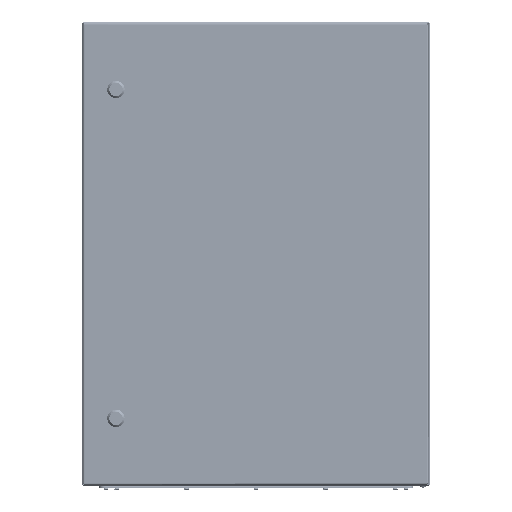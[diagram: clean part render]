
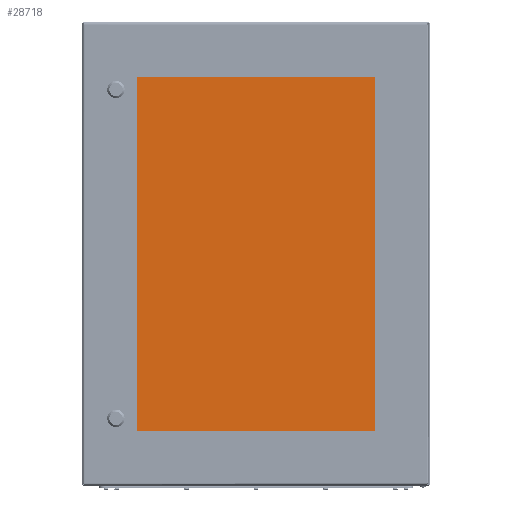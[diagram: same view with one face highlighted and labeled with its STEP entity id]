
A CAD part, top view. The second image highlights one B-rep face of the part: STEP entity #28718.
In plain terms, the highlighted planar face has unit normal (0, 0, 1).
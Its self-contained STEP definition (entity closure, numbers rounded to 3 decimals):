
#27 = CARTESIAN_POINT ( 'NONE',  ( -214., 314., 2. ) ) ;
#57 = CARTESIAN_POINT ( 'NONE',  ( 215., -315., 2. ) ) ;
#88 = VERTEX_POINT ( 'NONE', #25430 ) ;
#302 = DIRECTION ( 'NONE',  ( 1., 0., 0. ) ) ;
#856 = ORIENTED_EDGE ( 'NONE', *, *, #10817, .T. ) ;
#1010 = EDGE_CURVE ( 'NONE', #51990, #41200, #48956, .T. ) ;
#2008 = DIRECTION ( 'NONE',  ( 0., 0., 1. ) ) ;
#2011 = CARTESIAN_POINT ( 'NONE',  ( 214., -315., 2. ) ) ;
#2350 = DIRECTION ( 'NONE',  ( 0., 0., 1. ) ) ;
#3502 = LINE ( 'NONE', #57, #37923 ) ;
#5162 = DIRECTION ( 'NONE',  ( 0., 1., 0. ) ) ;
#5264 = CARTESIAN_POINT ( 'NONE',  ( -214., 315., 2. ) ) ;
#5792 = CARTESIAN_POINT ( 'NONE',  ( -214., -314., 2. ) ) ;
#6329 = DIRECTION ( 'NONE',  ( 1., 0., 0. ) ) ;
#6801 = DIRECTION ( 'NONE',  ( 0., 0., 1. ) ) ;
#7711 = ORIENTED_EDGE ( 'NONE', *, *, #28537, .T. ) ;
#7895 = AXIS2_PLACEMENT_3D ( 'NONE', #22205, #2008, #51869 ) ;
#9232 = CIRCLE ( 'NONE', #20267, 1. ) ;
#9599 = CIRCLE ( 'NONE', #7895, 1. ) ;
#10077 = ORIENTED_EDGE ( 'NONE', *, *, #19885, .T. ) ;
#10817 = EDGE_CURVE ( 'NONE', #34873, #25125, #12876, .T. ) ;
#11285 = CARTESIAN_POINT ( 'NONE',  ( 215., -314., 2. ) ) ;
#12528 = CARTESIAN_POINT ( 'NONE',  ( 0., 0., 2. ) ) ;
#12858 = CARTESIAN_POINT ( 'NONE',  ( 215., 315., 2. ) ) ;
#12876 = CIRCLE ( 'NONE', #32344, 1. ) ;
#14267 = DIRECTION ( 'NONE',  ( 0., -1., 0. ) ) ;
#14987 = CARTESIAN_POINT ( 'NONE',  ( 215., 314., 2. ) ) ;
#15108 = EDGE_CURVE ( 'NONE', #28686, #34873, #45556, .T. ) ;
#16703 = ORIENTED_EDGE ( 'NONE', *, *, #1010, .T. ) ;
#17262 = EDGE_LOOP ( 'NONE', ( #34831, #856, #10077, #37313, #16703, #37803, #7711, #23389 ) ) ;
#18846 = VERTEX_POINT ( 'NONE', #5264 ) ;
#19580 = VECTOR ( 'NONE', #5162, 1000. ) ;
#19885 = EDGE_CURVE ( 'NONE', #25125, #38973, #3502, .T. ) ;
#20267 = AXIS2_PLACEMENT_3D ( 'NONE', #49798, #6801, #47369 ) ;
#20485 = DIRECTION ( 'NONE',  ( 0., 0., 1. ) ) ;
#20913 = CARTESIAN_POINT ( 'NONE',  ( -215., -314., 2. ) ) ;
#21272 = CIRCLE ( 'NONE', #26406, 1. ) ;
#22205 = CARTESIAN_POINT ( 'NONE',  ( 214., 314., 2. ) ) ;
#22313 = VECTOR ( 'NONE', #29059, 1000. ) ;
#23389 = ORIENTED_EDGE ( 'NONE', *, *, #24896, .T. ) ;
#24896 = EDGE_CURVE ( 'NONE', #18846, #28686, #21272, .T. ) ;
#25125 = VERTEX_POINT ( 'NONE', #34518 ) ;
#25430 = CARTESIAN_POINT ( 'NONE',  ( 214., 315., 2. ) ) ;
#25987 = DIRECTION ( 'NONE',  ( 1., 0., 0. ) ) ;
#26406 = AXIS2_PLACEMENT_3D ( 'NONE', #27, #20485, #302 ) ;
#28215 = AXIS2_PLACEMENT_3D ( 'NONE', #12528, #34197, #25987 ) ;
#28533 = LINE ( 'NONE', #12858, #22313 ) ;
#28537 = EDGE_CURVE ( 'NONE', #88, #18846, #28533, .T. ) ;
#28686 = VERTEX_POINT ( 'NONE', #36934 ) ;
#28718 = ADVANCED_FACE ( 'NONE', ( #41134 ), #33214, .T. ) ;
#29059 = DIRECTION ( 'NONE',  ( -1., 0., 0. ) ) ;
#29213 = EDGE_CURVE ( 'NONE', #41200, #88, #9599, .T. ) ;
#31661 = DIRECTION ( 'NONE',  ( 1., 0., 0. ) ) ;
#32344 = AXIS2_PLACEMENT_3D ( 'NONE', #5792, #2350, #6329 ) ;
#33214 = PLANE ( 'NONE',  #28215 ) ;
#34197 = DIRECTION ( 'NONE',  ( 0., 0., 1. ) ) ;
#34518 = CARTESIAN_POINT ( 'NONE',  ( -214., -315., 2. ) ) ;
#34831 = ORIENTED_EDGE ( 'NONE', *, *, #15108, .T. ) ;
#34873 = VERTEX_POINT ( 'NONE', #20913 ) ;
#36934 = CARTESIAN_POINT ( 'NONE',  ( -215., 314., 2. ) ) ;
#37313 = ORIENTED_EDGE ( 'NONE', *, *, #49913, .T. ) ;
#37803 = ORIENTED_EDGE ( 'NONE', *, *, #29213, .T. ) ;
#37923 = VECTOR ( 'NONE', #31661, 1000. ) ;
#38973 = VERTEX_POINT ( 'NONE', #2011 ) ;
#41134 = FACE_OUTER_BOUND ( 'NONE', #17262, .T. ) ;
#41200 = VERTEX_POINT ( 'NONE', #14987 ) ;
#42097 = CARTESIAN_POINT ( 'NONE',  ( -215., -315., 2. ) ) ;
#45556 = LINE ( 'NONE', #42097, #49553 ) ;
#47369 = DIRECTION ( 'NONE',  ( 1., 0., 0. ) ) ;
#48956 = LINE ( 'NONE', #49751, #19580 ) ;
#49553 = VECTOR ( 'NONE', #14267, 1000. ) ;
#49751 = CARTESIAN_POINT ( 'NONE',  ( 215., -315., 2. ) ) ;
#49798 = CARTESIAN_POINT ( 'NONE',  ( 214., -314., 2. ) ) ;
#49913 = EDGE_CURVE ( 'NONE', #38973, #51990, #9232, .T. ) ;
#51869 = DIRECTION ( 'NONE',  ( 1., 0., 0. ) ) ;
#51990 = VERTEX_POINT ( 'NONE', #11285 ) ;
